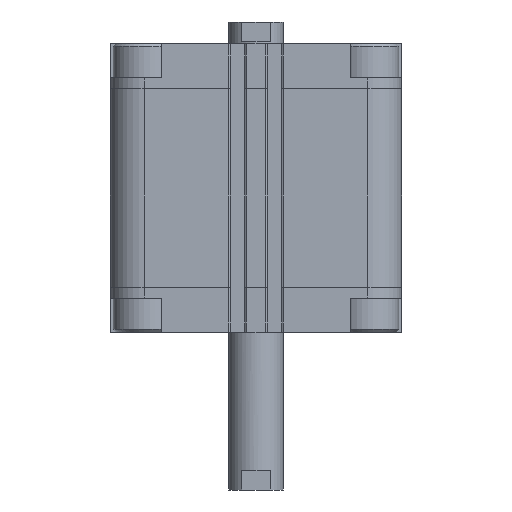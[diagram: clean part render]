
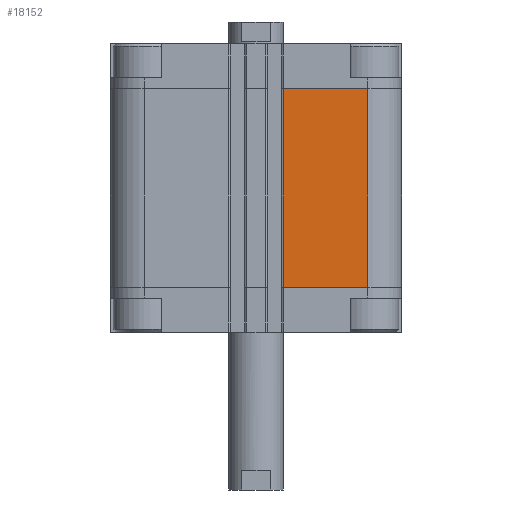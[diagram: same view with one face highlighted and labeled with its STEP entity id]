
A CAD part, front view. The second image highlights one B-rep face of the part: STEP entity #18152.
In plain terms, the highlighted planar face has unit normal (0, -1, 0).
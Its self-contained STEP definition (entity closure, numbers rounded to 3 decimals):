
#271 = DIRECTION ( 'NONE',  ( 0., -1., 0. ) ) ;
#381 = DIRECTION ( 'NONE',  ( -1., 0., 0. ) ) ;
#499 = VECTOR ( 'NONE', #2284, 1000. ) ;
#649 = EDGE_CURVE ( 'NONE', #16057, #2751, #14152, .T. ) ;
#1863 = EDGE_CURVE ( 'NONE', #20107, #16057, #16874, .T. ) ;
#2196 = FACE_OUTER_BOUND ( 'NONE', #17303, .T. ) ;
#2284 = DIRECTION ( 'NONE',  ( 0., 0., 1. ) ) ;
#2751 = VERTEX_POINT ( 'NONE', #10894 ) ;
#2755 = EDGE_CURVE ( 'NONE', #15945, #2751, #12926, .T. ) ;
#3739 = LINE ( 'NONE', #7180, #7839 ) ;
#4181 = VECTOR ( 'NONE', #19477, 1000. ) ;
#4790 = CARTESIAN_POINT ( 'NONE',  ( 41., -53.5, -89.5 ) ) ;
#4928 = ORIENTED_EDGE ( 'NONE', *, *, #649, .F. ) ;
#5389 = VECTOR ( 'NONE', #12238, 1000. ) ;
#7180 = CARTESIAN_POINT ( 'NONE',  ( 9.95, -53.5, -89.5 ) ) ;
#7839 = VECTOR ( 'NONE', #18645, 1000. ) ;
#8661 = CARTESIAN_POINT ( 'NONE',  ( 9.95, -53.5, -89.5 ) ) ;
#9200 = ORIENTED_EDGE ( 'NONE', *, *, #2755, .T. ) ;
#10894 = CARTESIAN_POINT ( 'NONE',  ( 41., -53.5, -16.5 ) ) ;
#11153 = CARTESIAN_POINT ( 'NONE',  ( 9.95, -53.5, -16.5 ) ) ;
#11532 = PLANE ( 'NONE',  #17413 ) ;
#11954 = ORIENTED_EDGE ( 'NONE', *, *, #1863, .F. ) ;
#12238 = DIRECTION ( 'NONE',  ( 1., 0., 0. ) ) ;
#12926 = LINE ( 'NONE', #4790, #4181 ) ;
#14152 = LINE ( 'NONE', #20719, #5389 ) ;
#14730 = CARTESIAN_POINT ( 'NONE',  ( 9.95, -53.5, -89.5 ) ) ;
#15945 = VERTEX_POINT ( 'NONE', #17382 ) ;
#16057 = VERTEX_POINT ( 'NONE', #11153 ) ;
#16874 = LINE ( 'NONE', #18373, #499 ) ;
#17303 = EDGE_LOOP ( 'NONE', ( #4928, #11954, #17983, #9200 ) ) ;
#17382 = CARTESIAN_POINT ( 'NONE',  ( 41., -53.5, -89.5 ) ) ;
#17413 = AXIS2_PLACEMENT_3D ( 'NONE', #8661, #271, #381 ) ;
#17779 = EDGE_CURVE ( 'NONE', #20107, #15945, #3739, .T. ) ;
#17983 = ORIENTED_EDGE ( 'NONE', *, *, #17779, .T. ) ;
#18152 = ADVANCED_FACE ( 'NONE', ( #2196 ), #11532, .T. ) ;
#18373 = CARTESIAN_POINT ( 'NONE',  ( 9.95, -53.5, -89.5 ) ) ;
#18645 = DIRECTION ( 'NONE',  ( 1., 0., 0. ) ) ;
#19477 = DIRECTION ( 'NONE',  ( 0., 0., 1. ) ) ;
#20107 = VERTEX_POINT ( 'NONE', #14730 ) ;
#20719 = CARTESIAN_POINT ( 'NONE',  ( 9.95, -53.5, -16.5 ) ) ;
